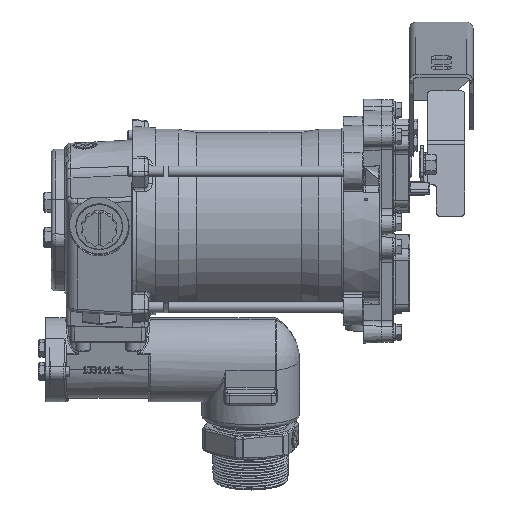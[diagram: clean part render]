
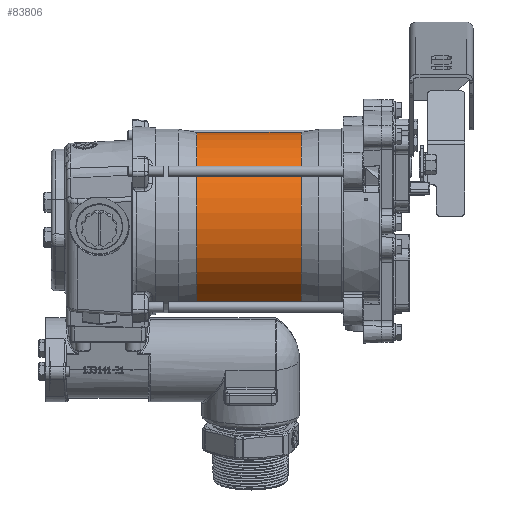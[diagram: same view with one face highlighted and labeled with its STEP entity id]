
A CAD part, top view. The second image highlights one B-rep face of the part: STEP entity #83806.
In plain terms, the highlighted cylindrical face has radius 69.85 mm (diameter 139.7 mm), a full revolution.
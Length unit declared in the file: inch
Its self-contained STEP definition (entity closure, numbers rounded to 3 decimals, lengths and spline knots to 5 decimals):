
#4112=CYLINDRICAL_SURFACE('',#89369,2.75);
#9133=LINE('',#175535,#15979);
#15979=VECTOR('',#104475,2.75);
#21410=FACE_OUTER_BOUND('',#26145,.T.);
#26145=EDGE_LOOP('',(#69031,#69032,#69033,#69034));
#29000=CIRCLE('',#89370,2.75);
#29001=CIRCLE('',#89371,2.75);
#37589=VERTEX_POINT('',#175532);
#37590=VERTEX_POINT('',#175534);
#48404=EDGE_CURVE('',#37589,#37589,#29000,.T.);
#48405=EDGE_CURVE('',#37589,#37590,#9133,.T.);
#48406=EDGE_CURVE('',#37590,#37590,#29001,.T.);
#69031=ORIENTED_EDGE('',*,*,#48404,.F.);
#69032=ORIENTED_EDGE('',*,*,#48405,.T.);
#69033=ORIENTED_EDGE('',*,*,#48406,.T.);
#69034=ORIENTED_EDGE('',*,*,#48405,.F.);
#83806=ADVANCED_FACE('',(#21410),#4112,.T.);
#89369=AXIS2_PLACEMENT_3D('',#175531,#104471,#104472);
#89370=AXIS2_PLACEMENT_3D('',#175533,#104473,#104474);
#89371=AXIS2_PLACEMENT_3D('',#175536,#104476,#104477);
#104471=DIRECTION('center_axis',(-1.,0.,0.));
#104472=DIRECTION('ref_axis',(0.,0.966,0.258));
#104473=DIRECTION('center_axis',(-1.,0.,0.));
#104474=DIRECTION('ref_axis',(0.,0.966,0.258));
#104475=DIRECTION('',(1.,0.,0.));
#104476=DIRECTION('center_axis',(-1.,0.,0.));
#104477=DIRECTION('ref_axis',(0.,0.966,0.258));
#175531=CARTESIAN_POINT('Origin',(4.94218,-3.35507,0.15754));
#175532=CARTESIAN_POINT('',(3.32431,-6.01171,-0.55293));
#175533=CARTESIAN_POINT('Origin',(3.32431,-3.35507,0.15754));
#175534=CARTESIAN_POINT('',(6.56006,-6.01171,-0.55293));
#175535=CARTESIAN_POINT('',(4.94218,-6.01171,-0.55293));
#175536=CARTESIAN_POINT('Origin',(6.56006,-3.35507,0.15754));
